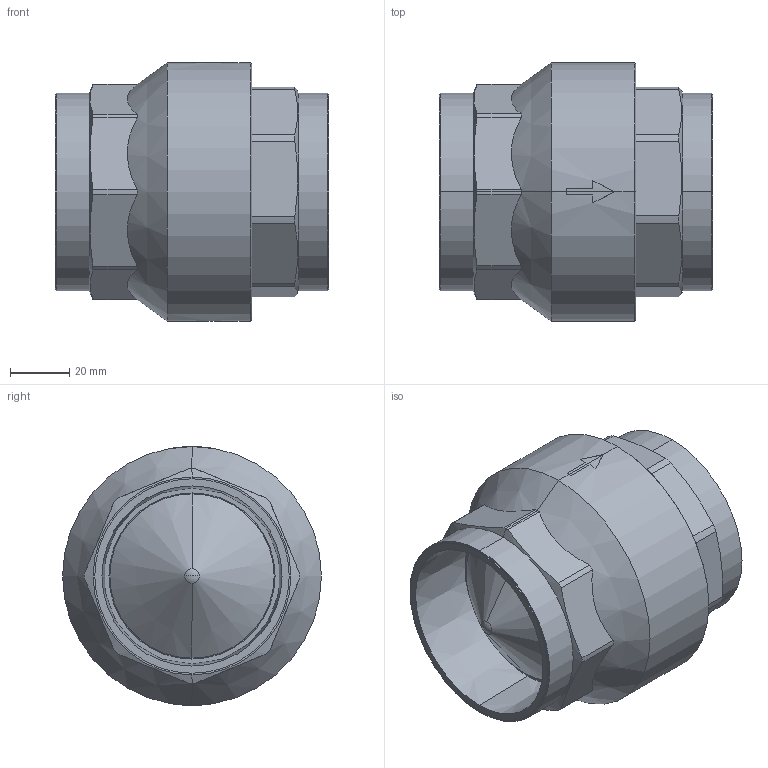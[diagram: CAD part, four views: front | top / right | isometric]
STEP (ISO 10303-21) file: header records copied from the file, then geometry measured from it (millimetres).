
FILE_DESCRIPTION (( 'STEP AP203' ), '1' );
FILE_NAME ('BC-16.STEP', '2018-11-15T16:42:17', ( '' ), ( '' ), 'SwSTEP 2.0', 'SolidWorks 2017', '' );
FILE_SCHEMA (( 'CONFIG_CONTROL_DESIGN' ));
Length unit declared in the file: inch
Products named in the file (12): BC-16; BC-16-POPPET-RETAINER; BC-16-spring; BC-16-BODY; BC-16-SEAL; BC-16-POPPET
Assembly tree (6 placements, depth 2):
  BC-16
    BC-16-spring
  BC-16
    BC-16-BODY
    BC-16-SEAL
    BC-16-POPPET
    BC-16-POPPET-RETAINER
    BC-16-spring
  BC-16-BODY
  BC-16-SEAL
  BC-16-POPPET
Bounding box: 92.08 x 87.12 x 87.12 mm (x, y, z)
Volume: 154593.4 mm3; surface area: 81280.2 mm2
Topology: 6 solids, 6 shells, 584 faces, 1429 edges, 852 vertices
Faces by surface type: cylinder 258, plane 207, cone 45, torus 38, sphere 34, bspline 2
Entity records: 21733 total; most frequent: CARTESIAN_POINT 7212, DIRECTION 2871, ORIENTED_EDGE 2808, EDGE_CURVE 1404, AXIS2_PLACEMENT_3D 1097, VERTEX_POINT 850, LINE 677, VECTOR 677
